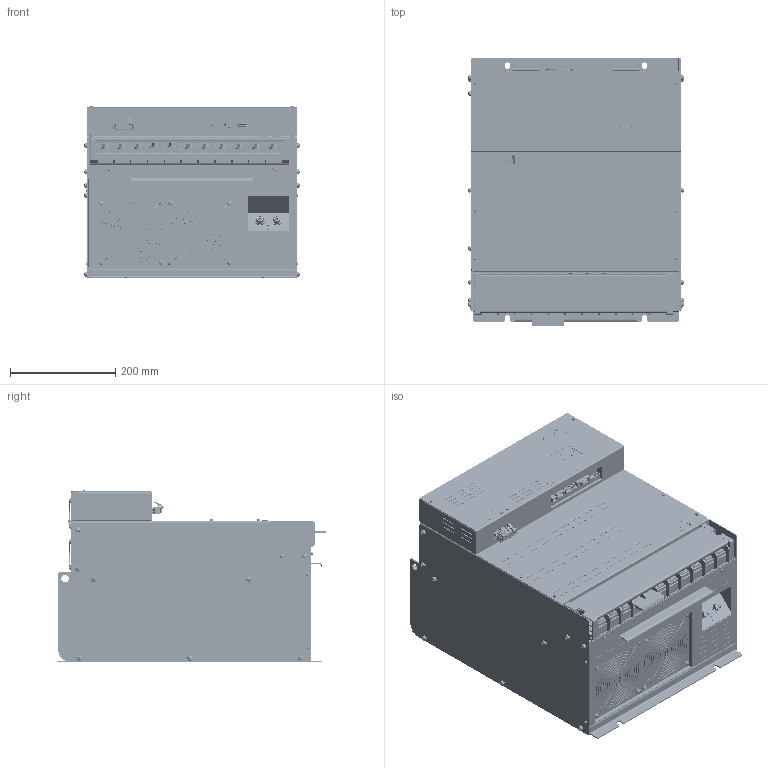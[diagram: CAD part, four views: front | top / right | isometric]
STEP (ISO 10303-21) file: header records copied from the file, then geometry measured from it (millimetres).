
FILE_DESCRIPTION (( 'STEP AP203' ), '1' );
FILE_NAME ('NCR-HB2-3_373#SE-83752.STEP', '2021-07-08T04:57:32', ( '' ), ( '' ), 'SwSTEP 2.0', 'SolidWorks 2018', '' );
FILE_SCHEMA (( 'CONFIG_CONTROL_DESIGN' ));
Products named in the file (1): NCR-HB2-3_373#SE-83752
Bounding box: 409.06 x 508 x 327.95 mm (x, y, z)
Volume: 50155322.1 mm3; surface area: 1547116.8 mm2
Topology: 4 solids, 43 shells, 16683 faces, 45571 edges, 29404 vertices
Faces by surface type: plane 10405, cylinder 2717, bspline 2010, cone 1219, torus 242, sphere 90
Entity records: 596960 total; most frequent: CARTESIAN_POINT 182480, ORIENTED_EDGE 90930, DIRECTION 79278, EDGE_CURVE 45465, LINE 30106, VECTOR 30106, VERTEX_POINT 29404, AXIS2_PLACEMENT_3D 24586
